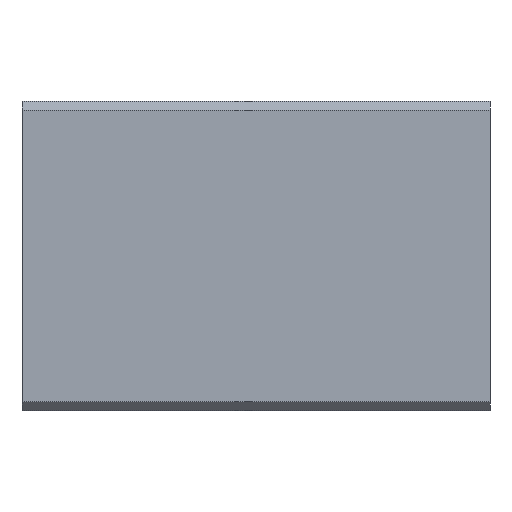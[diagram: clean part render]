
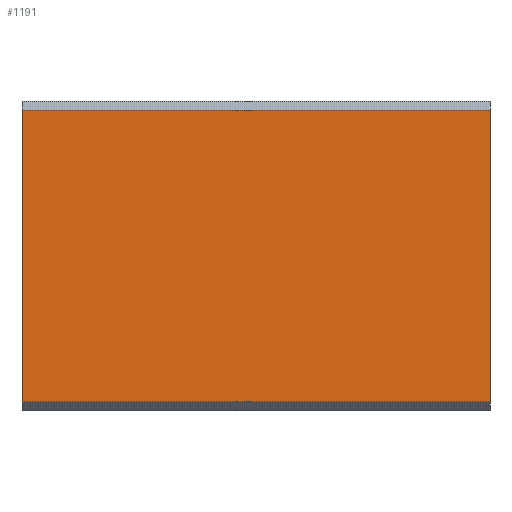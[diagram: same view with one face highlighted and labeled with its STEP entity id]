
A CAD part, front view. The second image highlights one B-rep face of the part: STEP entity #1191.
In plain terms, the highlighted planar face has unit normal (0, -1, 0).
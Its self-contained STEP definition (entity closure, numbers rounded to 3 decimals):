
#16 = EDGE_LOOP ( 'NONE', ( #5507, #5323, #5352, #5887 ) ) ;
#54 = VERTEX_POINT ( 'NONE', #8653 ) ;
#57 = VERTEX_POINT ( 'NONE', #8650 ) ;
#59 = VERTEX_POINT ( 'NONE', #8648 ) ;
#60 = VERTEX_POINT ( 'NONE', #8647 ) ;
#1191 = ADVANCED_FACE ( 'NONE', ( #3084 ), #11464, .F. ) ;
#2670 = LINE ( 'NONE', #14865, #2677 ) ;
#2677 = VECTOR ( 'NONE', #14716, 1000. ) ;
#2681 = LINE ( 'NONE', #14591, #2808 ) ;
#2808 = VECTOR ( 'NONE', #14389, 1000. ) ;
#2817 = VECTOR ( 'NONE', #15507, 1000. ) ;
#2841 = LINE ( 'NONE', #15508, #2817 ) ;
#2857 = VECTOR ( 'NONE', #14030, 1000. ) ;
#2863 = LINE ( 'NONE', #14056, #2857 ) ;
#3084 = FACE_OUTER_BOUND ( 'NONE', #16, .T. ) ;
#5323 = ORIENTED_EDGE ( 'NONE', *, *, #13193, .T. ) ;
#5352 = ORIENTED_EDGE ( 'NONE', *, *, #13200, .F. ) ;
#5507 = ORIENTED_EDGE ( 'NONE', *, *, #13187, .T. ) ;
#5887 = ORIENTED_EDGE ( 'NONE', *, *, #13206, .T. ) ;
#8647 = CARTESIAN_POINT ( 'NONE',  ( 0., -17.5, 16.5 ) ) ;
#8648 = CARTESIAN_POINT ( 'NONE',  ( 0., -17.5, -16.5 ) ) ;
#8650 = CARTESIAN_POINT ( 'NONE',  ( 53., -17.5, 16.5 ) ) ;
#8653 = CARTESIAN_POINT ( 'NONE',  ( 53., -17.5, -16.5 ) ) ;
#11433 = DIRECTION ( 'NONE',  ( 0., 0., 1. ) ) ;
#11435 = DIRECTION ( 'NONE',  ( 0., 1., 0. ) ) ;
#11436 = CARTESIAN_POINT ( 'NONE',  ( 53., -17.5, 17.5 ) ) ;
#11464 = PLANE ( 'NONE',  #12181 ) ;
#12181 = AXIS2_PLACEMENT_3D ( 'NONE', #11436, #11435, #11433 ) ;
#13187 = EDGE_CURVE ( 'NONE', #60, #59, #2670, .T. ) ;
#13193 = EDGE_CURVE ( 'NONE', #59, #54, #2681, .T. ) ;
#13200 = EDGE_CURVE ( 'NONE', #57, #54, #2863, .T. ) ;
#13206 = EDGE_CURVE ( 'NONE', #57, #60, #2841, .T. ) ;
#14030 = DIRECTION ( 'NONE',  ( 0., 0., -1. ) ) ;
#14056 = CARTESIAN_POINT ( 'NONE',  ( 53., -17.5, 17.5 ) ) ;
#14389 = DIRECTION ( 'NONE',  ( 1., 0., 0. ) ) ;
#14591 = CARTESIAN_POINT ( 'NONE',  ( 53., -17.5, -16.5 ) ) ;
#14716 = DIRECTION ( 'NONE',  ( 0., 0., -1. ) ) ;
#14865 = CARTESIAN_POINT ( 'NONE',  ( 0., -17.5, 17.5 ) ) ;
#15507 = DIRECTION ( 'NONE',  ( -1., 0., 0. ) ) ;
#15508 = CARTESIAN_POINT ( 'NONE',  ( 53., -17.5, 16.5 ) ) ;
